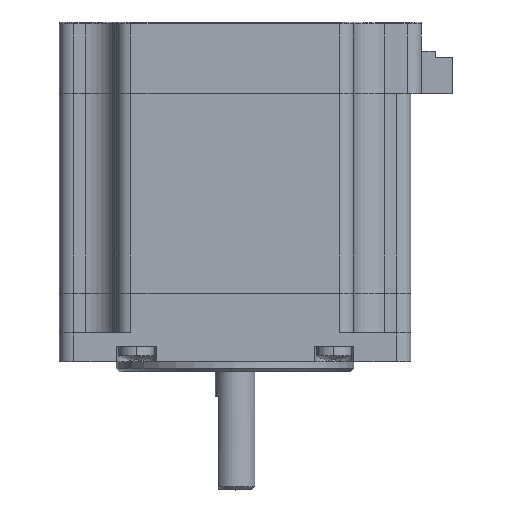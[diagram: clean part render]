
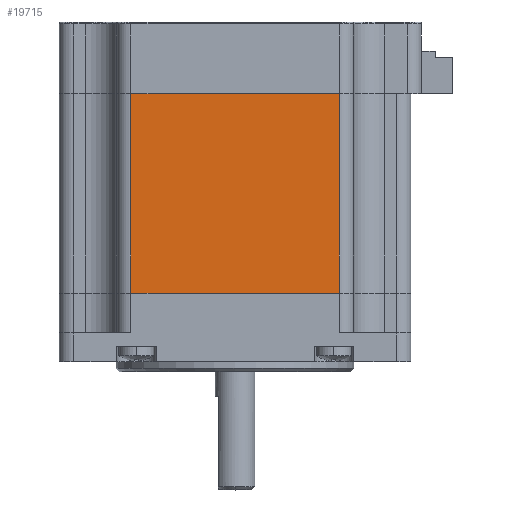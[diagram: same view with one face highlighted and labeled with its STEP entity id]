
A CAD part, front view. The second image highlights one B-rep face of the part: STEP entity #19715.
In plain terms, the highlighted planar face has unit normal (0, -1, 0).
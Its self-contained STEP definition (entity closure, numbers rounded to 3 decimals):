
#928 = CARTESIAN_POINT ( 'NONE',  ( 16.7, -28.2, 0. ) ) ;
#1526 = ORIENTED_EDGE ( 'NONE', *, *, #51852, .T. ) ;
#1556 = EDGE_CURVE ( 'NONE', #43537, #11521, #2266, .T. ) ;
#2266 = LINE ( 'NONE', #44741, #4465 ) ;
#3463 = CARTESIAN_POINT ( 'NONE',  ( -16.7, -28.2, 0. ) ) ;
#3560 = DIRECTION ( 'NONE',  ( 0., -1., 0. ) ) ;
#4465 = VECTOR ( 'NONE', #16544, 1000. ) ;
#5373 = VECTOR ( 'NONE', #18083, 1000. ) ;
#7862 = CARTESIAN_POINT ( 'NONE',  ( -25.9, -28.2, 32. ) ) ;
#9353 = AXIS2_PLACEMENT_3D ( 'NONE', #31502, #3560, #36166 ) ;
#9400 = LINE ( 'NONE', #7862, #38572 ) ;
#10404 = FACE_OUTER_BOUND ( 'NONE', #18435, .T. ) ;
#11521 = VERTEX_POINT ( 'NONE', #46750 ) ;
#13583 = VERTEX_POINT ( 'NONE', #36030 ) ;
#16544 = DIRECTION ( 'NONE',  ( 0., 0., -1. ) ) ;
#18083 = DIRECTION ( 'NONE',  ( 0., 0., -1. ) ) ;
#18435 = EDGE_LOOP ( 'NONE', ( #56971, #24254, #30883, #1526 ) ) ;
#19715 = ADVANCED_FACE ( 'NONE', ( #10404 ), #26778, .T. ) ;
#23787 = EDGE_CURVE ( 'NONE', #43537, #13583, #9400, .T. ) ;
#24254 = ORIENTED_EDGE ( 'NONE', *, *, #23787, .F. ) ;
#25466 = LINE ( 'NONE', #3463, #37165 ) ;
#26778 = PLANE ( 'NONE',  #9353 ) ;
#27658 = CARTESIAN_POINT ( 'NONE',  ( 16.7, -28.2, 0. ) ) ;
#29962 = CARTESIAN_POINT ( 'NONE',  ( -16.7, -28.2, 32. ) ) ;
#30883 = ORIENTED_EDGE ( 'NONE', *, *, #1556, .T. ) ;
#30909 = DIRECTION ( 'NONE',  ( 1., 0., 0. ) ) ;
#31502 = CARTESIAN_POINT ( 'NONE',  ( -16.7, -28.2, 0. ) ) ;
#36022 = LINE ( 'NONE', #27658, #5373 ) ;
#36030 = CARTESIAN_POINT ( 'NONE',  ( 16.7, -28.2, 32. ) ) ;
#36166 = DIRECTION ( 'NONE',  ( 0., 0., -1. ) ) ;
#37165 = VECTOR ( 'NONE', #39962, 1000. ) ;
#38572 = VECTOR ( 'NONE', #30909, 1000. ) ;
#39962 = DIRECTION ( 'NONE',  ( 1., 0., 0. ) ) ;
#43537 = VERTEX_POINT ( 'NONE', #29962 ) ;
#44741 = CARTESIAN_POINT ( 'NONE',  ( -16.7, -28.2, 0. ) ) ;
#44963 = VERTEX_POINT ( 'NONE', #928 ) ;
#46750 = CARTESIAN_POINT ( 'NONE',  ( -16.7, -28.2, 0. ) ) ;
#51852 = EDGE_CURVE ( 'NONE', #11521, #44963, #25466, .T. ) ;
#56971 = ORIENTED_EDGE ( 'NONE', *, *, #58654, .F. ) ;
#58654 = EDGE_CURVE ( 'NONE', #13583, #44963, #36022, .T. ) ;
